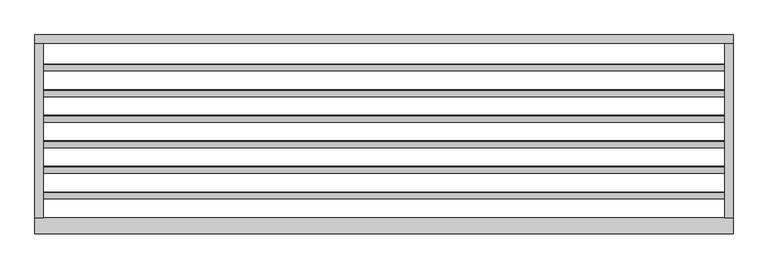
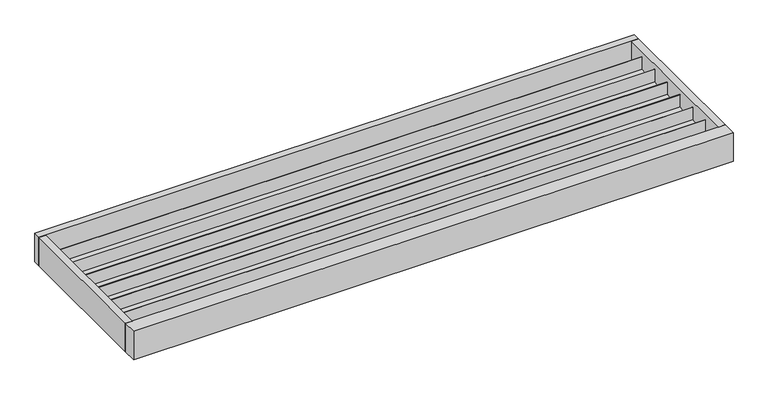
"""IFC4 building model written with IfcOpenShell, lengths in millimetres: proxy geometry, Renson_Amani_Canopy : Renson_Amani_Canopy."""

from ifc_helpers import new_model, si_unit, frame, origin, place, context, project, spatial, polyline, outline, extrude, source, transform, mapped, element, save


def generic_models_b6bb1ce4(model_context):
    return source(origin(), model_context, "Body", "SweptSolid", [
        extrude(outline(polyline([(700.0, -99.0), (728.0, -92.0), (728.0, -27.0), (730.0, -27.0), (730.0, -150.0), (700.0, -150.0), (700.0, -99.0)])), frame((35.0, 0.0, 0.0), z_axis=(1.0, 0.0, 0.0), x_axis=(0.0, 1.0, 0.0)), (0.0, 0.0, 1.0), 2930.0),
        extrude(outline(polyline([(590.0, -99.0), (618.0, -92.0), (618.0, -27.0), (620.0, -27.0), (620.0, -150.0), (590.0, -150.0), (590.0, -99.0)])), frame((35.0, 0.0, 0.0), z_axis=(1.0, 0.0, 0.0), x_axis=(0.0, 1.0, 0.0)), (0.0, 0.0, 1.0), 2930.0),
        extrude(outline(polyline([(480.0, -99.0), (508.0, -92.0), (508.0, -27.0), (510.0, -27.0), (510.0, -150.0), (480.0, -150.0), (480.0, -99.0)])), frame((35.0, 0.0, 0.0), z_axis=(1.0, 0.0, 0.0), x_axis=(0.0, 1.0, 0.0)), (0.0, 0.0, 1.0), 2930.0),
        extrude(outline(polyline([(370.0, -99.0), (398.0, -92.0), (398.0, -27.0), (400.0, -27.0), (400.0, -150.0), (370.0, -150.0), (370.0, -99.0)])), frame((35.0, 0.0, 0.0), z_axis=(1.0, 0.0, 0.0), x_axis=(0.0, 1.0, 0.0)), (0.0, 0.0, 1.0), 2930.0),
        extrude(outline(polyline([(260.0, -99.0), (288.0, -92.0), (288.0, -27.0), (290.0, -27.0), (290.0, -150.0), (260.0, -150.0), (260.0, -99.0)])), frame((35.0, 0.0, 0.0), z_axis=(1.0, 0.0, 0.0), x_axis=(0.0, 1.0, 0.0)), (0.0, 0.0, 1.0), 2930.0),
        extrude(outline(polyline([(150.0, -99.0), (178.0, -92.0), (178.0, -27.0), (180.0, -27.0), (180.0, -150.0), (150.0, -150.0), (150.0, -99.0)])), frame((35.0, 0.0, 0.0), z_axis=(1.0, 0.0, 0.0), x_axis=(0.0, 1.0, 0.0)), (0.0, 0.0, 1.0), 2930.0),
        extrude(outline(polyline([(3000.0, 855.0), (3000.0, 820.0), (0.0, 820.0), (0.0, 855.0), (3000.0, 855.0)])), frame((0.0, 0.0, -150.0), z_axis=(0.0, 0.0, 1.0), x_axis=(1.0, 0.0, 0.0)), (0.0, 0.0, 1.0), 150.0),
        extrude(outline(polyline([(3000.0, 70.0), (2965.0, 70.0), (2965.0, 820.0), (3000.0, 820.0), (3000.0, 70.0)])), frame((0.0, 0.0, -150.0), z_axis=(0.0, 0.0, 1.0), x_axis=(1.0, 0.0, 0.0)), (0.0, 0.0, 1.0), 150.0),
        extrude(outline(polyline([(35.0, 70.0), (0.0, 70.0), (0.0, 820.0), (35.0, 820.0), (35.0, 70.0)])), frame((0.0, 0.0, -150.0), z_axis=(0.0, 0.0, 1.0), x_axis=(1.0, 0.0, 0.0)), (0.0, 0.0, 1.0), 150.0),
        extrude(outline(polyline([(3000.0, 70.0), (3000.0, 0.0), (0.0, 0.0), (0.0, 70.0), (3000.0, 70.0)])), frame((0.0, 0.0, -150.0), z_axis=(0.0, 0.0, 1.0), x_axis=(1.0, 0.0, 0.0)), (0.0, 0.0, 1.0), 150.0),
    ])


if __name__ == "__main__":
    model = new_model("IFC4")
    model_context = context("Model", 3, world=origin())
    ifc_project = project(units=[si_unit("LENGTHUNIT", "METRE", prefix="MILLI")], contexts=[model_context])
    site = spatial("IfcSite", under=ifc_project)
    building = spatial("IfcBuilding", under=site)
    placement = place(None, origin())
    generic_models_shape = generic_models_b6bb1ce4(model_context)
    element("IfcBuildingElementProxy", 1, Name="Renson_Amani_Canopy : Renson_Amani_Canopy", ObjectType="Renson_Amani_Canopy : Renson_Amani_Canopy", at=placement, inside=building, context=model_context, shape_type="MappedRepresentation", body=[
        mapped(generic_models_shape, transform((0.0, 0.0, 0.0), x_axis=(1.0, 0.0, 0.0), y_axis=(0.0, 1.0, 0.0), z_axis=(0.0, 0.0, 1.0))),
    ])
    save(model, "model.ifc")
